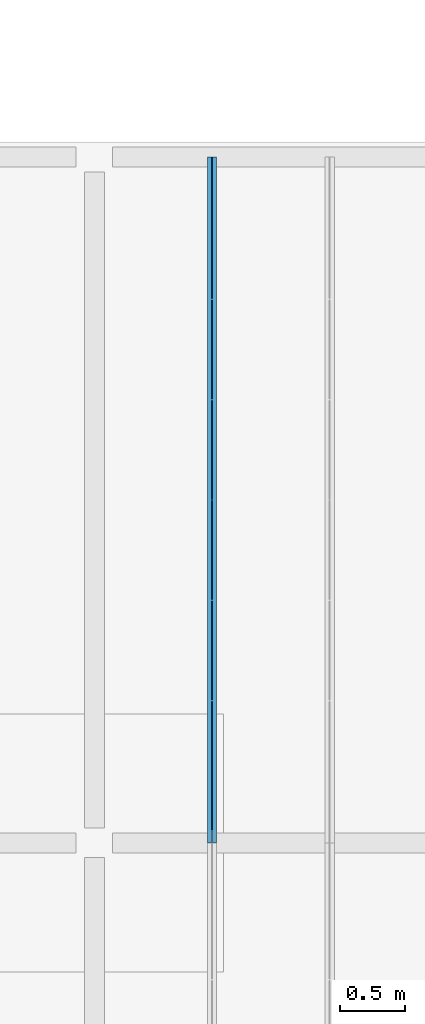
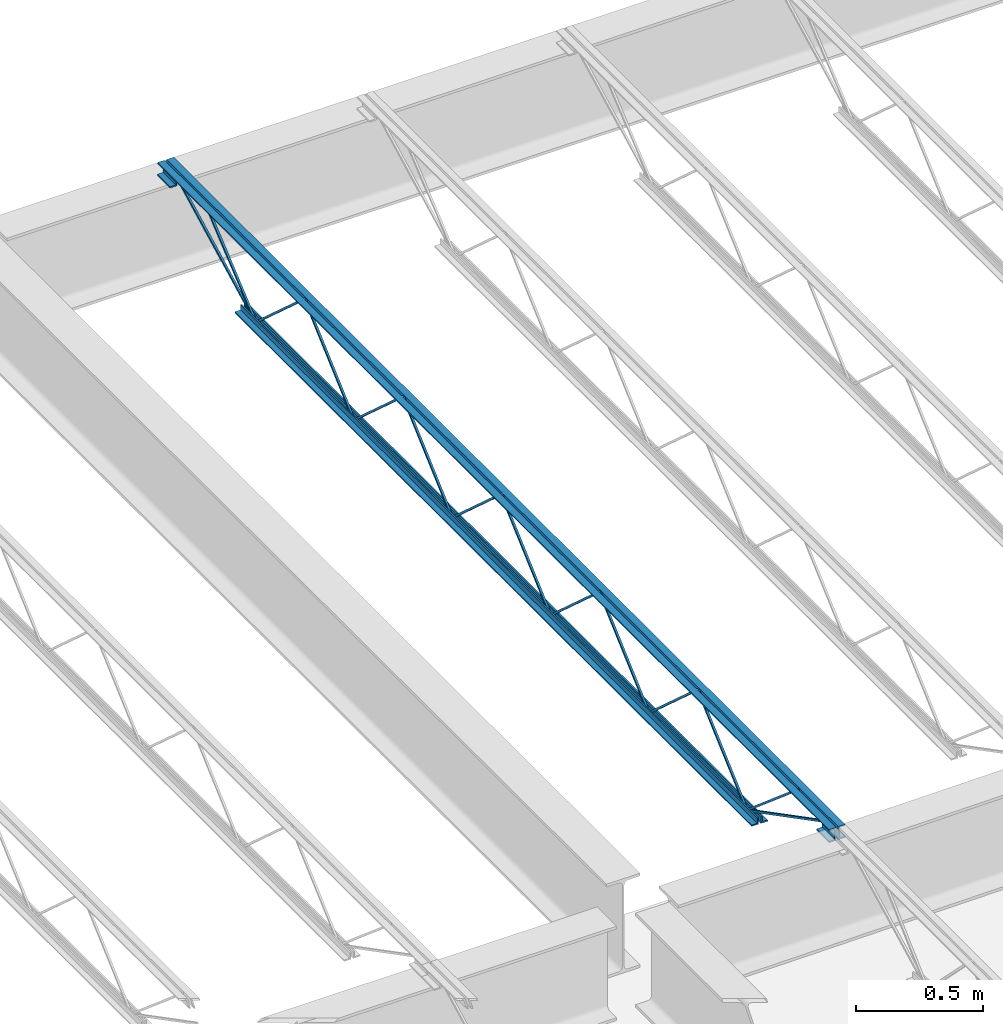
# One storey, part 72 of 75: 1 beam.
"""IFC2X3 building model written with IfcOpenShell, lengths in metres."""

from ifc_helpers import new_model, entity, si_unit, converted_unit, frame, origin, place, context, project, spatial, face_set, surface_model, element, save


model = new_model("IFC2X3")

# Units and contexts
model_context = context("Model", 3, precision=1e-09, world=origin())
plan_context = context("Plan", 3, precision=1e-09, world=origin())
ifc_project = project(units=[si_unit("LENGTHUNIT", "METRE"), si_unit("AREAUNIT", "SQUARE_METRE"), si_unit("VOLUMEUNIT", "CUBIC_METRE"), converted_unit("PLANEANGLEUNIT", "DEGREE", entity("IfcRatioMeasure", 0.01745329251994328), si_unit("PLANEANGLEUNIT", "RADIAN"), dimensions=[0, 0, 0, 0, 0, 0, 0]), si_unit("TIMEUNIT", "SECOND")], contexts=[model_context, plan_context])

# Site, building, storey
site_placement = place(None, origin())
site = spatial("IfcSite", under=ifc_project, at=site_placement, Name="Default", CompositionType="ELEMENT")
building_placement = place(site_placement, origin())
building = spatial("IfcBuilding", under=site, at=building_placement, CompositionType="ELEMENT")
storey_placement = place(building_placement, origin())
storey = spatial("IfcBuildingStorey", under=building, at=storey_placement, Name="First Floor", CompositionType="ELEMENT", Elevation=-3.531500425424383e-13)

# Beam
beam_placement = place(storey_placement, frame((-6.406750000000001, 44.78049999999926, 4.112000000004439), z_axis=(0.0, 0.0, 1.0), x_axis=(-1.0, 0.0, 0.0)))
element("IfcBeam", 1, at=beam_placement, inside=storey, Name="M_K-Series Bar Joist-Rod Web:14K1:14K1", ObjectType="M_K-Series Bar Joist-Rod Web:14K1", context=model_context, shape_type="SurfaceModel", body=[
    surface_model("IfcFaceBasedSurfaceModel", [(-0.03200000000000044, -2.266000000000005, 0.01110000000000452), (-0.04150000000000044, -2.266000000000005, 0.01110000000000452), (-0.04150000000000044, -2.266000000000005, 0.001600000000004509), (-0.03200000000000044, -2.266000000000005, 0.001600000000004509), (-0.04150000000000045, -2.264645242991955, 0.01110000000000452), (-0.03200000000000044, -2.264645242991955, 0.01110000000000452), (-0.04150000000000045, -2.261004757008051, 0.001600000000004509), (-0.04150000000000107, -1.878854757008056, 0.3449000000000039), (-0.04150000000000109, -1.876145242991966, 0.3449000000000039), (-0.04150000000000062, -1.493995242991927, 0.001600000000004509), (-0.04150000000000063, -1.489000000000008, 0.001600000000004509), (-0.04150000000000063, -1.489000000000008, 0.01110000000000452), (-0.04150000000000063, -1.490354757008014, 0.01110000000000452), (-0.0415, -1.872504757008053, 0.3544000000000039), (-0.04149999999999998, -1.88249524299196, 0.3544000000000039), (-0.03200000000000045, -2.261004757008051, 0.001600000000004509), (-0.03199999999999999, -1.878854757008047, 0.3449000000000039), (-0.03199999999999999, -1.876145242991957, 0.3449000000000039), (-0.03200000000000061, -1.493995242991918, 0.001600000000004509), (-0.03200000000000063, -1.489000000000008, 0.001600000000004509), (-0.03200000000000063, -1.489000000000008, 0.01110000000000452), (-0.03200000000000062, -1.490354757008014, 0.01110000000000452), (-0.03200000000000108, -1.872504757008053, 0.3544000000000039), (-0.03200000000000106, -1.88249524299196, 0.3544000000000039), (-0.03200000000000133, -3.043000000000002, 0.01110000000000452), (-0.04150000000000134, -3.043000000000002, 0.01110000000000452), (-0.04150000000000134, -3.043000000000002, 0.001600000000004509), (-0.03200000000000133, -3.043000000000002, 0.001600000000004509), (-0.04150000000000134, -3.041645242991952, 0.01110000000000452), (-0.03200000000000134, -3.041645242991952, 0.01110000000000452), (-0.04150000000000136, -3.038004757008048, 0.001600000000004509), (-0.04150000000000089, -2.655854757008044, 0.3449000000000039), (-0.0415000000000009, -2.653145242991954, 0.3449000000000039), (-0.04150000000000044, -2.270995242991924, 0.001600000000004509), (-0.04150000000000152, -2.266000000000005, 0.01110000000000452), (-0.04150000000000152, -2.267354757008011, 0.01110000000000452), (-0.0415000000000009, -2.649504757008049, 0.3544000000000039), (-0.04150000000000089, -2.659495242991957, 0.3544000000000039), (-0.03200000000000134, -3.038004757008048, 0.001600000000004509), (-0.03200000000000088, -2.655854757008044, 0.3449000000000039), (-0.03200000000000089, -2.653145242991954, 0.3449000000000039), (-0.03200000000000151, -2.270995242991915, 0.001600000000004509), (-0.03200000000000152, -2.266000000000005, 0.001600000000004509), (-0.03200000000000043, -2.267354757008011, 0.01110000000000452), (-0.0320000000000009, -2.649504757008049, 0.3544000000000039), (-0.03200000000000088, -2.659495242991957, 0.3544000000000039), (-0.03200000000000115, -3.819999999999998, 0.01110000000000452), (-0.04150000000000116, -3.819999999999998, 0.01110000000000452), (-0.04150000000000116, -3.819999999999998, 0.001600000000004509), (-0.03200000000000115, -3.819999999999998, 0.001600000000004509), (-0.04150000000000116, -3.818645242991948, 0.01110000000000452), (-0.03200000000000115, -3.818645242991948, 0.01110000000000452), (-0.04150000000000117, -3.815004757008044, 0.001600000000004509), (-0.0415000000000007, -3.432854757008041, 0.3449000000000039), (-0.04150000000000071, -3.43014524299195, 0.3449000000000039), (-0.04150000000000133, -3.047995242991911, 0.001600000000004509), (-0.04150000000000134, -3.042999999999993, 0.001600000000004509), (-0.04150000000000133, -3.044354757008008, 0.01110000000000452), (-0.04150000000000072, -3.426504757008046, 0.3544000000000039), (-0.0415000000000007, -3.436495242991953, 0.3544000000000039), (-0.03200000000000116, -3.815004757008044, 0.001600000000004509), (-0.0320000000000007, -3.432854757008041, 0.3449000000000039), (-0.0320000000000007, -3.43014524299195, 0.3449000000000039), (-0.03200000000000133, -3.047995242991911, 0.001600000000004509), (-0.03200000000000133, -3.042999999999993, 0.01110000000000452), (-0.03200000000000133, -3.044354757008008, 0.01110000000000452), (-0.03200000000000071, -3.426504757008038, 0.3544000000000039), (-0.0320000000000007, -3.436495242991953, 0.3544000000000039), (-0.03200000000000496, -1.489000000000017, 0.01109999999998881), (-0.04150000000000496, -1.489000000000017, 0.01109999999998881), (-0.04150000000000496, -1.489000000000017, 0.001599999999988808), (-0.03200000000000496, -1.489000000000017, 0.001599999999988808), (-0.04150000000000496, -1.487645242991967, 0.01109999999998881), (-0.03200000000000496, -1.487645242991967, 0.01109999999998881), (-0.04150000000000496, -1.484004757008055, 0.001599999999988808), (-0.04150000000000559, -1.101854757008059, 0.3448999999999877), (-0.04150000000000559, -1.099145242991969, 0.3448999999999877), (-0.04150000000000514, -0.7169952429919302, 0.001599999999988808), (-0.04150000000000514, -0.7120000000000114, 0.001599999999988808), (-0.04150000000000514, -0.7120000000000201, 0.01109999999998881), (-0.04150000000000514, -0.7133547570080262, 0.01109999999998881), (-0.04150000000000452, -1.095504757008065, 0.3543999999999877), (-0.0415000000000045, -1.105495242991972, 0.3543999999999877), (-0.03200000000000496, -1.484004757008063, 0.001599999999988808), (-0.0320000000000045, -1.101854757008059, 0.3448999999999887), (-0.0320000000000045, -1.099145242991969, 0.3448999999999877), (-0.03200000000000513, -0.7169952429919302, 0.001599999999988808), (-0.03200000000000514, -0.7120000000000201, 0.001599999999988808), (-0.03200000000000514, -0.7120000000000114, 0.01109999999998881), (-0.03200000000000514, -0.7133547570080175, 0.01109999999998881), (-0.03200000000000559, -1.095504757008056, 0.3543999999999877), (-0.03200000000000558, -1.105495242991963, 0.3543999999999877), (-0.03200000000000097, -4.596999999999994, 0.01110000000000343), (-0.04150000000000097, -4.596999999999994, 0.01110000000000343), (-0.04150000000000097, -4.596999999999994, 0.001600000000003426), (-0.03200000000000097, -4.596999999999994, 0.001600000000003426), (-0.04150000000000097, -4.595645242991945, 0.01110000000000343), (-0.03200000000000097, -4.595645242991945, 0.01110000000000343), (-0.04150000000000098, -4.592004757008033, 0.001600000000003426), (-0.04150000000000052, -4.209854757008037, 0.3449000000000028), (-0.04150000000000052, -4.207145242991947, 0.3449000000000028), (-0.04150000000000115, -3.824995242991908, 0.001600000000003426), (-0.04150000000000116, -3.819999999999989, 0.001600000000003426), (-0.04150000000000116, -3.819999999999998, 0.01110000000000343), (-0.04150000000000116, -3.821354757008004, 0.01110000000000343), (-0.04150000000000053, -4.203504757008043, 0.3544000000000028), (-0.04150000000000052, -4.21349524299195, 0.3544000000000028), (-0.03200000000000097, -4.592004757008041, 0.001600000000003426), (-0.03200000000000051, -4.209854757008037, 0.3449000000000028), (-0.03200000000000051, -4.207145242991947, 0.3449000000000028), (-0.03200000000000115, -3.824995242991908, 0.001600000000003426), (-0.03200000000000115, -3.819999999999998, 0.001600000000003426), (-0.03200000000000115, -3.819999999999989, 0.01110000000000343), (-0.03200000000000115, -3.821354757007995, 0.01110000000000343), (-0.03200000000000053, -4.203504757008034, 0.3544000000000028), (-0.03200000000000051, -4.21349524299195, 0.3544000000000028), (-0.04150000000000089, 0.0, 0.3560000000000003), (-0.07350000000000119, 0.0, 0.3560000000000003), (-0.07350000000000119, 0.0, 0.3494999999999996), (-0.04800000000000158, 0.0, 0.3494999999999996), (-0.04800000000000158, 0.0, 0.3239999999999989), (-0.04150000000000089, 0.0, 0.3239999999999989), (-0.03200000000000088, 0.0, 0.3560000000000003), (-0.03200000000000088, 0.0, 0.3239999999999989), (-0.02550000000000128, 0.0, 0.3239999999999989), (-0.02550000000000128, 0.0, 0.3494999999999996), (0.0, 0.0, 0.3494999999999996), (0.0, 0.0, 0.3560000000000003), (-0.0415000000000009, -5.308999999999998, 0.3560000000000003), (-0.0735000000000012, -5.308999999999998, 0.3560000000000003), (-0.0735000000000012, -5.308999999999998, 0.3494999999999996), (-0.04800000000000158, -5.308999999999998, 0.3494999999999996), (-0.04800000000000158, -5.308999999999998, 0.3239999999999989), (-0.0415000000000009, -5.308999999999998, 0.3239999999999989), (-0.03200000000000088, -5.308999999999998, 0.3560000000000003), (-0.03200000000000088, -5.308999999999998, 0.3239999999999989), (-0.02550000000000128, -5.308999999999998, 0.3239999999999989), (-0.02550000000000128, -5.308999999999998, 0.3494999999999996), (0.0, -5.308999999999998, 0.3494999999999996), (0.0, -5.308999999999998, 0.3560000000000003), (-0.03200000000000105, -5.209000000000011, 0.2924999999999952), (0.0, -5.209000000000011, 0.2924999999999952), (0.0, -5.209000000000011, 0.2989999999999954), (-0.02550000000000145, -5.209000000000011, 0.2989999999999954), (-0.02550000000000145, -5.209000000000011, 0.3239999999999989), (-0.03200000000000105, -5.209000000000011, 0.3239999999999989), (-0.07350000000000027, -5.209000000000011, 0.2924999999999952), (-0.04150000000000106, -5.209000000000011, 0.2924999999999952), (-0.04150000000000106, -5.209000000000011, 0.3239999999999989), (-0.04800000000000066, -5.209000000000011, 0.3239999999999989), (-0.04800000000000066, -5.209000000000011, 0.2989999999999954), (-0.07350000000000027, -5.209000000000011, 0.2989999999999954), (-0.03200000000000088, -5.308999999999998, 0.2924999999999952), (0.0, -5.308999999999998, 0.2924999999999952), (0.0, -5.308999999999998, 0.2989999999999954), (-0.02550000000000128, -5.308999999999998, 0.2989999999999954), (-0.07350000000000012, -5.308999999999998, 0.2924999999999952), (-0.0415000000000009, -5.308999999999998, 0.2924999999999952), (-0.0480000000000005, -5.308999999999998, 0.3239999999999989), (-0.0480000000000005, -5.308999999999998, 0.2989999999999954), (-0.07350000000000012, -5.308999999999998, 0.2989999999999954), (-0.04150000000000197, 0.0, 0.2924999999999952), (-0.04150000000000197, 0.0, 0.3239999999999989), (-0.04800000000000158, 0.0, 0.2989999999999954), (-0.07350000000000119, 0.0, 0.2989999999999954), (-0.07350000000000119, 0.0, 0.2924999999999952), (-0.03200000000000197, 0.0, 0.2924999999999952), (0.0, 0.0, 0.2924999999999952), (0.0, 0.0, 0.2989999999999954), (-0.02550000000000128, 0.0, 0.2989999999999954), (-0.03200000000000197, 0.0, 0.3239999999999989), (-0.04150000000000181, -0.0999999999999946, 0.2924999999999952), (-0.04150000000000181, -0.0999999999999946, 0.3239999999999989), (-0.04800000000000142, -0.0999999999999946, 0.3239999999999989), (-0.04800000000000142, -0.0999999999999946, 0.2989999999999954), (-0.07350000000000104, -0.0999999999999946, 0.2989999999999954), (-0.07350000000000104, -0.0999999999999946, 0.2924999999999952), (-0.03200000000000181, -0.0999999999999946, 0.2924999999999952), (0.0, -0.0999999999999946, 0.2924999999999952), (0.0, -0.0999999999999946, 0.2989999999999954), (-0.02550000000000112, -0.0999999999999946, 0.2989999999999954), (-0.02550000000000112, -0.0999999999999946, 0.3239999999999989), (-0.03200000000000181, -0.0999999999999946, 0.3239999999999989), (-0.04150000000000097, -0.6119999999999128, 0.0), (-0.04150000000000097, -0.6119999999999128, 0.03199999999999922), (-0.04800000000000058, -0.6119999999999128, 0.03199999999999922), (-0.04800000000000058, -0.6119999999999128, 0.006500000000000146), (-0.07350000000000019, -0.6119999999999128, 0.006500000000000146), (-0.07350000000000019, -0.6119999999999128, 0.0), (-0.03200000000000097, -0.6119999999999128, 0.0), (0.0, -0.6119999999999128, 0.0), (0.0, -0.6119999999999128, 0.006500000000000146), (-0.02550000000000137, -0.6119999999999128, 0.006500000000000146), (-0.02550000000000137, -0.6119999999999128, 0.03199999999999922), (-0.03200000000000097, -0.6119999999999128, 0.03199999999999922), (-0.04150000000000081, -4.696999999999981, 0.0), (-0.04150000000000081, -4.696999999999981, 0.03199999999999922), (-0.04800000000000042, -4.696999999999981, 0.03199999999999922), (-0.04800000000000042, -4.696999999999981, 0.006500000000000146), (-0.07350000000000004, -4.696999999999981, 0.006500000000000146), (-0.07350000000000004, -4.696999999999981, 0.0), (-0.0320000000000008, -4.696999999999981, 0.0), (0.0, -4.696999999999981, 0.0), (0.0, -4.696999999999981, 0.006500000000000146), (-0.0255000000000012, -4.696999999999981, 0.006500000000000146), (-0.0255000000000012, -4.696999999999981, 0.03199999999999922), (-0.0320000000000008, -4.696999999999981, 0.03199999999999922), (-0.03200000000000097, -4.594811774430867, 0.0105659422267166), (-0.04150000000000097, -4.594811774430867, 0.0105659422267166), (-0.04150000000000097, -4.599188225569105, 0.002134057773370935), (-0.03200000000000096, -4.599188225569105, 0.002134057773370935), (-0.03200000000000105, -5.207840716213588, 0.32875), (-0.03200000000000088, -5.308999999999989, 0.32875), (-0.03200000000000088, -5.308999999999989, 0.31925), (-0.03200000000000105, -5.210159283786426, 0.31925), (-0.04150000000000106, -5.210159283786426, 0.31925), (-0.04150000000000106, -5.207840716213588, 0.32875), (-0.0415000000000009, -5.308999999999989, 0.32875), (-0.0415000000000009, -5.308999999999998, 0.31925), (-0.03200000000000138, -5.005457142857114, 0.3417000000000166), (-0.04150000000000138, -5.005457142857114, 0.3417000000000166), (-0.04150000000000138, -5.005457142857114, 0.3322000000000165), (-0.03200000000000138, -5.005457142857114, 0.3322000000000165), (-0.04150000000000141, -4.991034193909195, 0.3417000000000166), (-0.0320000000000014, -4.991034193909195, 0.3417000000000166), (-0.0415000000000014, -4.99448009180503, 0.3322000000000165), (-0.04150000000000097, -4.600045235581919, 0.002704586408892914), (-0.04150000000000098, -4.593954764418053, 0.00999541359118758), (-0.0320000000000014, -4.99448009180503, 0.3322000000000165), (-0.03200000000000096, -4.600045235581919, 0.002704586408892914), (-0.03200000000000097, -4.593954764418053, 0.009995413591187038), (-0.03200000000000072, -0.09781177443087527, 0.3197840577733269), (-0.03200000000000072, -0.1021882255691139, 0.3282159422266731), (-0.04150000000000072, -0.1021882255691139, 0.3282159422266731), (-0.04150000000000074, -0.09781177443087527, 0.3197840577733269), (-0.03200000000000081, -0.7098117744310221, 0.002134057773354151), (-0.0320000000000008, -0.7141882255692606, 0.01056594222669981), (-0.04150000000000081, -0.7141882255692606, 0.01056594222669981), (-0.04150000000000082, -0.7098117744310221, 0.002134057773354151), (-0.03200000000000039, -0.3059055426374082, 0.3460340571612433), (-0.03200000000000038, -0.3120658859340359, 0.3532659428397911), (-0.04150000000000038, -0.3120658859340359, 0.3532659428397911), (-0.04150000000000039, -0.3059055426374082, 0.3460340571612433), (-0.03200000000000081, -0.7089198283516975, 0.002734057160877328), (-0.0320000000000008, -0.7150801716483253, 0.009965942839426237), (-0.04150000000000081, -0.7150801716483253, 0.009965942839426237), (-0.04150000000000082, -0.7089198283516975, 0.002734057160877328)], [face_set([[[0, 1, 2, 3]], [[1, 4, 5, 0]], [[2, 6, 7, 8, 9, 10, 11, 12, 13, 14, 4, 1]], [[3, 2, 6, 15]], [[0, 3, 15, 16, 17, 18, 19, 20, 21, 22, 23, 5]], [[4, 5, 23, 14]], [[15, 16, 7, 6]], [[14, 13, 22, 23]], [[16, 7, 8, 17]], [[13, 12, 21, 22]], [[17, 8, 9, 18]], [[20, 11, 10, 19]], [[12, 11, 20, 21]], [[18, 9, 10, 19]]]), face_set([[[24, 25, 26, 27]], [[25, 28, 29, 24]], [[26, 30, 31, 32, 33, 2, 34, 35, 36, 37, 28, 25]], [[27, 26, 30, 38]], [[24, 27, 38, 39, 40, 41, 42, 0, 43, 44, 45, 29]], [[28, 29, 45, 37]], [[38, 39, 31, 30]], [[37, 36, 44, 45]], [[39, 31, 32, 40]], [[36, 35, 43, 44]], [[40, 32, 33, 41]], [[0, 34, 2, 42]], [[35, 34, 0, 43]], [[41, 33, 2, 42]]]), face_set([[[46, 47, 48, 49]], [[47, 50, 51, 46]], [[48, 52, 53, 54, 55, 56, 25, 57, 58, 59, 50, 47]], [[49, 48, 52, 60]], [[46, 49, 60, 61, 62, 63, 27, 64, 65, 66, 67, 51]], [[50, 51, 67, 59]], [[60, 61, 53, 52]], [[59, 58, 66, 67]], [[61, 53, 54, 62]], [[58, 57, 65, 66]], [[62, 54, 55, 63]], [[64, 25, 56, 27]], [[57, 25, 64, 65]], [[63, 55, 56, 27]]]), face_set([[[68, 69, 70, 71]], [[69, 72, 73, 68]], [[70, 74, 75, 76, 77, 78, 79, 80, 81, 82, 72, 69]], [[71, 70, 74, 83]], [[68, 71, 83, 84, 85, 86, 87, 88, 89, 90, 91, 73]], [[72, 73, 91, 82]], [[83, 84, 75, 74]], [[82, 81, 90, 91]], [[84, 75, 76, 85]], [[81, 80, 89, 90]], [[85, 76, 77, 86]], [[88, 79, 78, 87]], [[80, 79, 88, 89]], [[86, 77, 78, 87]]]), face_set([[[92, 93, 94, 95]], [[93, 96, 97, 92]], [[94, 98, 99, 100, 101, 102, 103, 104, 105, 106, 96, 93]], [[95, 94, 98, 107]], [[92, 95, 107, 108, 109, 110, 111, 112, 113, 114, 115, 97]], [[96, 97, 115, 106]], [[107, 108, 99, 98]], [[106, 105, 114, 115]], [[108, 99, 100, 109]], [[105, 104, 113, 114]], [[109, 100, 101, 110]], [[112, 103, 102, 111]], [[104, 103, 112, 113]], [[110, 101, 102, 111]]]), face_set([[[116, 117, 118, 119, 120, 121]], [[122, 123, 124, 125, 126, 127]], [[128, 129, 130, 131, 132, 133]], [[134, 135, 136, 137, 138, 139]], [[121, 116, 128, 133]], [[120, 121, 133, 132]], [[119, 131, 132, 120]], [[118, 119, 131, 130]], [[117, 129, 130, 118]], [[116, 128, 129, 117]], [[127, 139, 134, 122]], [[126, 127, 139, 138]], [[125, 126, 138, 137]], [[124, 125, 137, 136]], [[123, 124, 136, 135]], [[122, 134, 135, 123]]]), face_set([[[140, 141, 142, 143, 144, 145]], [[146, 147, 148, 149, 150, 151]], [[152, 153, 154, 155, 136, 135]], [[156, 157, 133, 158, 159, 160]], [[145, 135, 152, 140]], [[144, 136, 135, 145]], [[143, 144, 136, 155]], [[142, 154, 155, 143]], [[141, 142, 154, 153]], [[140, 141, 153, 152]], [[151, 160, 156, 146]], [[150, 159, 160, 151]], [[149, 158, 159, 150]], [[148, 133, 158, 149]], [[147, 148, 133, 157]], [[146, 147, 157, 156]]]), face_set([[[161, 162, 120, 163, 164, 165]], [[166, 167, 168, 169, 124, 170]], [[171, 172, 173, 174, 175, 176]], [[177, 178, 179, 180, 181, 182]], [[165, 161, 171, 176]], [[164, 175, 176, 165]], [[163, 174, 175, 164]], [[120, 173, 174, 163]], [[162, 172, 173, 120]], [[161, 162, 172, 171]], [[170, 182, 177, 166]], [[124, 181, 182, 170]], [[169, 124, 181, 180]], [[168, 179, 180, 169]], [[167, 168, 179, 178]], [[166, 167, 178, 177]]]), face_set([[[183, 184, 185, 186, 187, 188]], [[189, 190, 191, 192, 193, 194]], [[195, 196, 197, 198, 199, 200]], [[201, 202, 203, 204, 205, 206]], [[188, 183, 195, 200]], [[187, 199, 200, 188]], [[186, 198, 199, 187]], [[185, 197, 198, 186]], [[184, 196, 197, 185]], [[183, 184, 196, 195]], [[194, 206, 201, 189]], [[193, 205, 206, 194]], [[192, 193, 205, 204]], [[191, 203, 204, 192]], [[190, 191, 203, 202]], [[189, 190, 202, 201]]]), face_set([[[207, 208, 209, 210]], [[210, 207, 211, 212, 213, 214]], [[209, 210, 214, 215]], [[208, 216, 217, 218, 215, 209]], [[207, 211, 216, 208]], [[212, 217, 218, 213]], [[215, 214, 213, 218]], [[211, 212, 217, 216]]]), face_set([[[219, 220, 221, 222]], [[220, 223, 224, 219]], [[221, 225, 226, 227, 223, 220]], [[222, 221, 225, 228]], [[219, 222, 228, 229, 230, 224]], [[230, 227, 226, 229]], [[223, 227, 230, 224]], [[228, 225, 226, 229]]]), face_set([[[231, 232, 233, 234]], [[235, 236, 237, 238]], [[234, 238, 235, 231]], [[233, 237, 238, 234]], [[232, 233, 237, 236]], [[231, 232, 236, 235]]]), face_set([[[239, 240, 241, 242]], [[243, 244, 245, 246]], [[242, 246, 243, 239]], [[241, 245, 246, 242]], [[240, 241, 245, 244]], [[239, 240, 244, 243]]])]),
])

save(model, "model.ifc")
